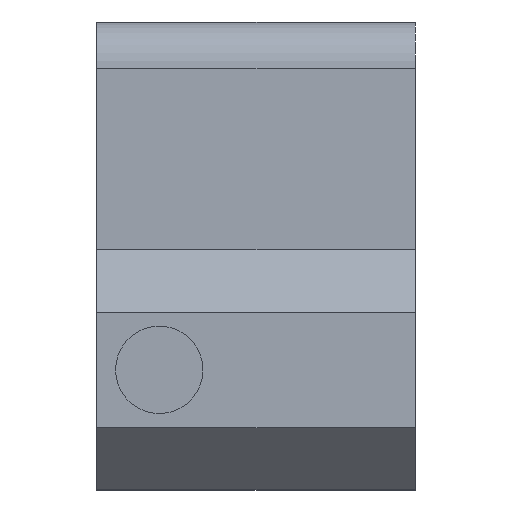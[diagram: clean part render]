
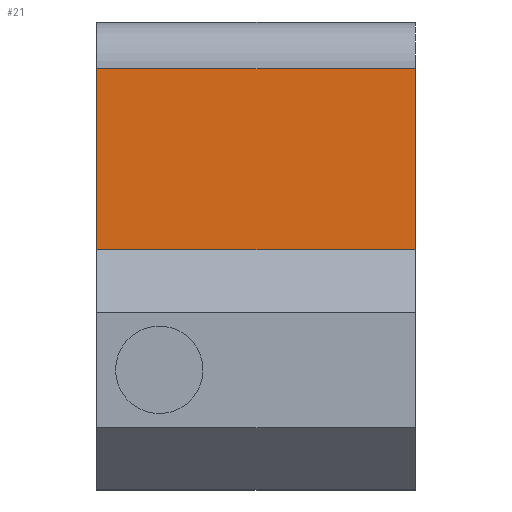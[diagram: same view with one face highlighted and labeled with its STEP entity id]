
A CAD part, left-side view. The second image highlights one B-rep face of the part: STEP entity #21.
In plain terms, the highlighted planar face has unit normal (-1, 0, 0).
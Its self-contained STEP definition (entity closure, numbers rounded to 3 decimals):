
#21 = ADVANCED_FACE ( 'NONE', ( #853 ), #1557, .F. ) ;
#87 = DIRECTION ( 'NONE',  ( 0., 0., 1. ) ) ;
#88 = EDGE_LOOP ( 'NONE', ( #598, #572, #601, #869 ) ) ;
#138 = VERTEX_POINT ( 'NONE', #286 ) ;
#152 = CARTESIAN_POINT ( 'NONE',  ( 0., 20.4, -15. ) ) ;
#177 = AXIS2_PLACEMENT_3D ( 'NONE', #152, #937, #1064 ) ;
#216 = CARTESIAN_POINT ( 'NONE',  ( 0., 20.4, -15. ) ) ;
#238 = CARTESIAN_POINT ( 'NONE',  ( 0., 0., -15. ) ) ;
#286 = CARTESIAN_POINT ( 'NONE',  ( 0., 20.4, 0.4 ) ) ;
#317 = VERTEX_POINT ( 'NONE', #1191 ) ;
#481 = VERTEX_POINT ( 'NONE', #1702 ) ;
#487 = VECTOR ( 'NONE', #1434, 1000. ) ;
#512 = EDGE_CURVE ( 'NONE', #138, #481, #1568, .T. ) ;
#567 = LINE ( 'NONE', #1207, #1594 ) ;
#572 = ORIENTED_EDGE ( 'NONE', *, *, #1450, .T. ) ;
#598 = ORIENTED_EDGE ( 'NONE', *, *, #730, .T. ) ;
#601 = ORIENTED_EDGE ( 'NONE', *, *, #512, .F. ) ;
#666 = DIRECTION ( 'NONE',  ( 0., 1., 0. ) ) ;
#730 = EDGE_CURVE ( 'NONE', #317, #1634, #1537, .T. ) ;
#836 = DIRECTION ( 'NONE',  ( 0., 1., 0. ) ) ;
#853 = FACE_OUTER_BOUND ( 'NONE', #88, .T. ) ;
#869 = ORIENTED_EDGE ( 'NONE', *, *, #1155, .F. ) ;
#896 = VECTOR ( 'NONE', #836, 1000. ) ;
#937 = DIRECTION ( 'NONE',  ( 1., 0., 0. ) ) ;
#1064 = DIRECTION ( 'NONE',  ( 0., 0., -1. ) ) ;
#1155 = EDGE_CURVE ( 'NONE', #317, #138, #567, .T. ) ;
#1179 = VECTOR ( 'NONE', #87, 1000. ) ;
#1191 = CARTESIAN_POINT ( 'NONE',  ( 0., 0., 0.4 ) ) ;
#1207 = CARTESIAN_POINT ( 'NONE',  ( 0., -15.911, 0.4 ) ) ;
#1434 = DIRECTION ( 'NONE',  ( 0., 0., 1. ) ) ;
#1450 = EDGE_CURVE ( 'NONE', #1634, #481, #1563, .T. ) ;
#1537 = LINE ( 'NONE', #238, #1179 ) ;
#1557 = PLANE ( 'NONE',  #177 ) ;
#1563 = LINE ( 'NONE', #1764, #896 ) ;
#1568 = LINE ( 'NONE', #216, #487 ) ;
#1594 = VECTOR ( 'NONE', #666, 1000. ) ;
#1634 = VERTEX_POINT ( 'NONE', #1710 ) ;
#1702 = CARTESIAN_POINT ( 'NONE',  ( 0., 20.4, 12. ) ) ;
#1710 = CARTESIAN_POINT ( 'NONE',  ( 0., 0., 12. ) ) ;
#1764 = CARTESIAN_POINT ( 'NONE',  ( 0., 20.4, 12. ) ) ;
